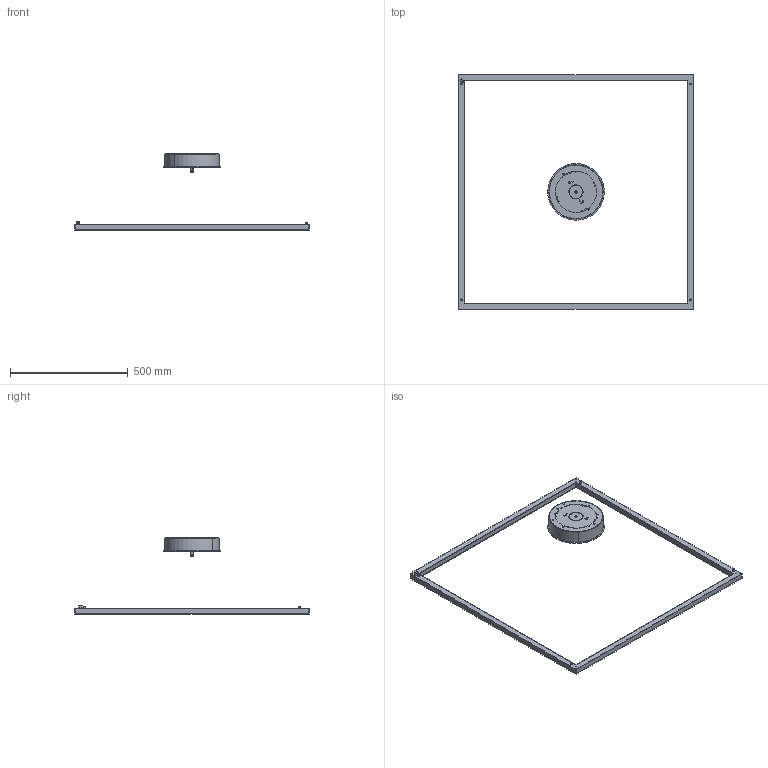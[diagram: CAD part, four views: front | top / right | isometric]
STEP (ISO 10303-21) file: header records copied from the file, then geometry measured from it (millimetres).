
FILE_DESCRIPTION (( 'STEP AP203' ), '1' );
FILE_NAME ('circus_1000_sq.STEP', '2020-04-01T11:37:20', ( '' ), ( '' ), 'SwSTEP 2.0', 'SolidWorks 2019', '' );
FILE_SCHEMA (( 'CONFIG_CONTROL_DESIGN' ));
Length unit declared in the file: millimetre
Products named in the file (1): circus_1000_sq
Bounding box: 995 x 995 x 323.28 mm (x, y, z)
Volume: 890772.7 mm3; surface area: 1116762.1 mm2
Topology: 35 solids, 35 shells, 860 faces, 1948 edges, 1250 vertices
Faces by surface type: plane 403, cylinder 375, cone 62, torus 20
Entity records: 24491 total; most frequent: DIRECTION 4464, CARTESIAN_POINT 4255, ORIENTED_EDGE 3896, EDGE_CURVE 1948, AXIS2_PLACEMENT_3D 1699, VERTEX_POINT 1250, LINE 1066, VECTOR 1066
